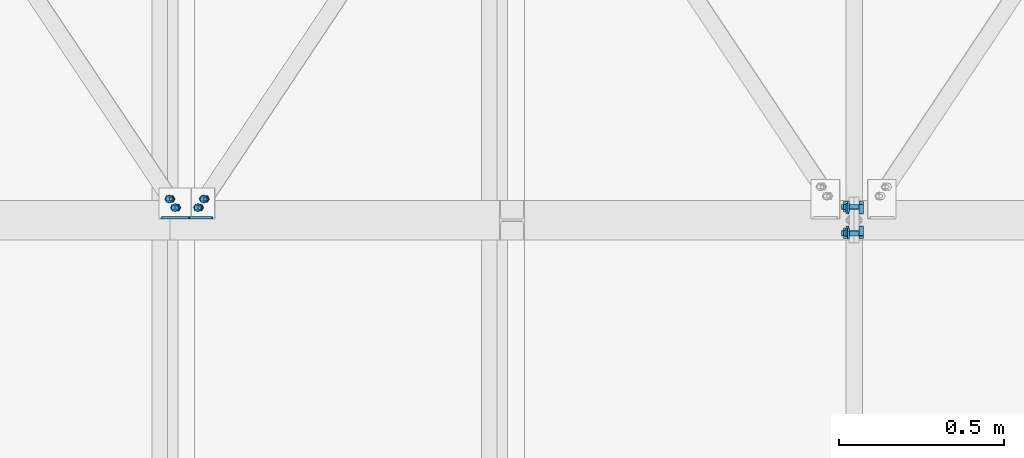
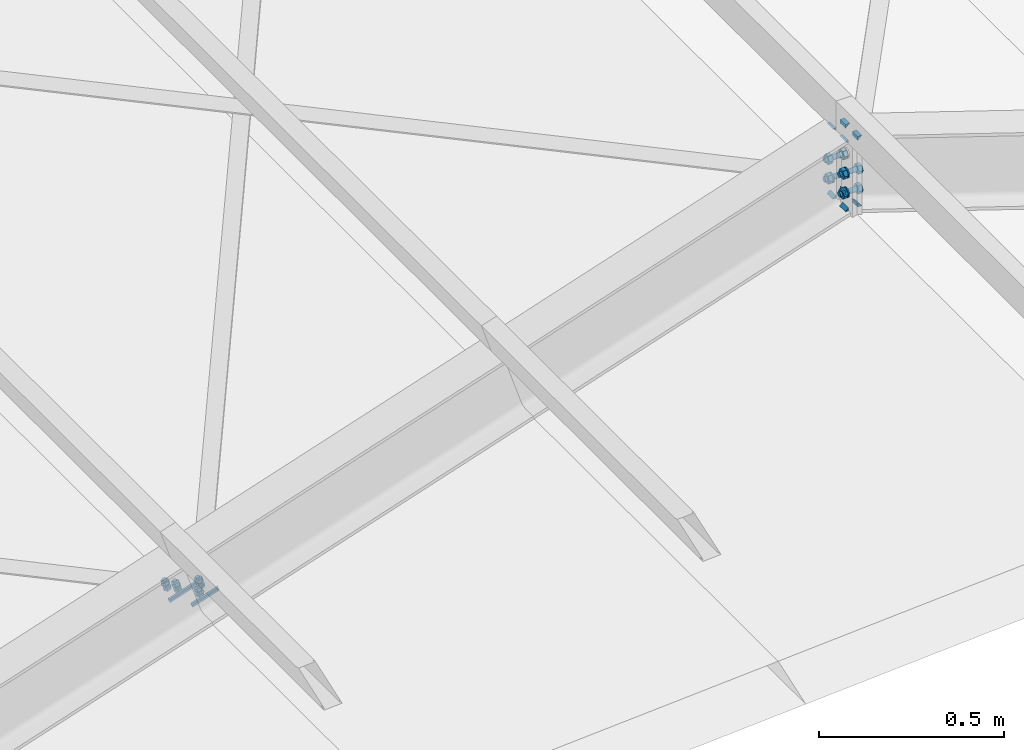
# One storey, part 40 of 53: 31 mechanical fasteners, 16 fasteners.
"""IFC4 building model written with IfcOpenShell, lengths in metres."""

import ifcopenshell
import ifcopenshell.guid

model = None  # the IFC model being written
_history = None  # IfcOwnerHistory: only IFC2X3 demands one
_inside = {}  # id of a spatial element -> (the spatial element, [elements in it])
_under = {}  # id of a project, library or spatial element -> (it, [spatial elements below it])
_declared = {}  # id of a project -> (the project, [libraries it declares])
_typed = {}  # id of a type object -> (the type object, [elements of that type])
_made_of = {}  # id of a material, layer set ... -> (it, [elements and type objects made of it])


def new_model(schema):
    """Start an empty IFC model of exactly this schema.

    Asked for "IFC4X3", IfcOpenShell would pick the latest addendum, in which some entities
    have other attributes; the version numbers below select the first issue.
    IFC2X3 requires an IfcOwnerHistory on every rooted entity: one is made here for all.
    """
    global model, _history
    if schema == "IFC4X3":
        model = ifcopenshell.file(schema_version=(4, 3, 0, 0))
    else:
        model = ifcopenshell.file(schema=schema)
    _inside.clear()
    _under.clear()
    _declared.clear()
    _typed.clear()
    _made_of.clear()
    _history = None
    if model.schema == "IFC2X3":
        org = make("IfcOrganization", Name="unknown")
        user = make(
            "IfcPersonAndOrganization",
            ThePerson=make("IfcPerson", FamilyName="unknown"),
            TheOrganization=org,
        )
        app = make(
            "IfcApplication",
            ApplicationDeveloper=org,
            Version="unknown",
            ApplicationFullName="unknown",
            ApplicationIdentifier="unknown",
        )
        _history = make(
            "IfcOwnerHistory",
            OwningUser=user,
            OwningApplication=app,
            ChangeAction="ADDED",
            CreationDate=0,
        )
    return model


def make(cls, **values):
    """One entity of the class cls with the attributes given. An attribute that is None is left unset."""
    return model.create_entity(
        cls, **{name: value for name, value in values.items() if value is not None}
    )


def rooted(cls, **values):
    """An entity with a GlobalId (a new one), such as an element, a storey or a relation."""
    return make(cls, GlobalId=ifcopenshell.guid.new(), OwnerHistory=_history, **values)


def si_unit(unit_type, name, prefix=None):
    """IfcSIUnit, for example si_unit("LENGTHUNIT", "METRE", prefix="MILLI")."""
    return make("IfcSIUnit", UnitType=unit_type, Prefix=prefix, Name=name)


def assignment(units):
    """IfcUnitAssignment: the units of a project."""
    return None if units is None else make("IfcUnitAssignment", Units=units)


def point(xyz):
    """IfcCartesianPoint."""
    return None if xyz is None else make("IfcCartesianPoint", Coordinates=xyz)


def direction(xyz):
    """IfcDirection."""
    return None if xyz is None else make("IfcDirection", DirectionRatios=xyz)


def frame(location, z_axis=None, x_axis=None):
    """IfcAxis2Placement3D, a coordinate frame: its origin and axes. An axis left out is left unset."""
    return make(
        "IfcAxis2Placement3D",
        Location=point(location),
        Axis=direction(z_axis),
        RefDirection=direction(x_axis),
    )


def origin_with_axes():
    """The frame at (0, 0, 0) with the z axis (0, 0, 1) and the x axis (1, 0, 0) written out."""
    return frame((0.0, 0.0, 0.0), z_axis=(0.0, 0.0, 1.0), x_axis=(1.0, 0.0, 0.0))


def place(relative_to, where):
    """IfcLocalPlacement: puts the frame where relative to a parent placement (None: the world)."""
    return make(
        "IfcLocalPlacement", PlacementRelTo=relative_to, RelativePlacement=where
    )


def context(
    kind, dimensions, precision=None, world=None, true_north=None, identifier=None
):
    """IfcGeometricRepresentationContext, for example the 3D "Model" context."""
    return make(
        "IfcGeometricRepresentationContext",
        ContextIdentifier=identifier,
        ContextType=kind,
        CoordinateSpaceDimension=dimensions,
        Precision=precision,
        WorldCoordinateSystem=world,
        TrueNorth=true_north,
    )


def project(units=None, contexts=None):
    """IfcProject with its units and contexts."""
    return rooted(
        "IfcProject",
        Name="project",
        RepresentationContexts=contexts,
        UnitsInContext=assignment(units),
    )


def spatial(cls, under=None, at=None, **own):
    """A site, building, storey or space (cls), placed at a placement, below another one or the project."""
    s = rooted(cls, ObjectPlacement=at, **own)
    if under is not None:
        _under.setdefault(under.id(), (under, []))[1].append(s)
    return s


def polyline(points):
    """IfcPolyline through the points."""
    return make("IfcPolyline", Points=[point(p) for p in points])


def outline(outer, holes=None, kind="AREA"):
    """IfcArbitraryClosedProfileDef: a profile drawn as a closed curve; with holes, ...WithVoids."""
    if holes is None:
        return make("IfcArbitraryClosedProfileDef", ProfileType=kind, OuterCurve=outer)
    return make(
        "IfcArbitraryProfileDefWithVoids",
        ProfileType=kind,
        OuterCurve=outer,
        InnerCurves=holes,
    )


def extrude(swept, where, along, depth):
    """IfcExtrudedAreaSolid: the profile swept, set in the frame where, extruded along a direction by depth."""
    return make(
        "IfcExtrudedAreaSolid",
        SweptArea=swept,
        Position=where,
        ExtrudedDirection=direction(along),
        Depth=depth,
    )


def shape(context_of_items, identifier, shape_type, items):
    """IfcShapeRepresentation: the items that make up one representation, for example the "Body"."""
    return make(
        "IfcShapeRepresentation",
        ContextOfItems=context_of_items,
        RepresentationIdentifier=identifier,
        RepresentationType=shape_type,
        Items=items,
    )


def made_of(thing, what):
    """Note that an element or type object is made of a material, layer set ...; save() writes the relation."""
    if what is not None:
        _made_of.setdefault(what.id(), (what, []))[1].append(thing)
    return thing


def type_object(cls, material=None, **own):
    """A type object (cls), such as IfcWallType, which elements share."""
    return made_of(rooted(cls, **own), material)


def element(
    cls,
    number,
    at=None,
    inside=None,
    cuts=None,
    type_object=None,
    material=None,
    context=None,
    identifier="Body",
    shape_type=None,
    held_by="IfcProductDefinitionShape",
    body=None,
    shapes=None,
    **own,
):
    """One element of the class cls, such as IfcWall. Its Tag is "e" and its number.

    at: its placement. inside: the storey or other place that contains it. cuts: it is an
    opening in that element (IfcRelVoidsElement). A single representation is given by context,
    identifier, shape_type and body (its items); several are given by shapes. held_by: the class
    of the entity that holds the representations. save() writes the other relations.
    """
    e = rooted(cls, Tag="e%d" % number, ObjectPlacement=at, **own)
    if body is not None:
        shapes = [shape(context, identifier, shape_type, body)]
    if shapes is not None:
        e.Representation = make(held_by, Representations=shapes)
    if inside is not None:
        _inside.setdefault(inside.id(), (inside, []))[1].append(e)
    if cuts is not None:
        rooted(
            "IfcRelVoidsElement", RelatingBuildingElement=cuts, RelatedOpeningElement=e
        )
    if type_object is not None:
        _typed.setdefault(type_object.id(), (type_object, []))[1].append(e)
    return made_of(e, material)


def aggregate(whole, parts):
    """IfcRelAggregates: a whole, such as a stair, and the parts it consists of."""
    return rooted("IfcRelAggregates", RelatingObject=whole, RelatedObjects=parts)


def save(model, path):
    """Write the relations noted so far, then the file.

    IfcRelAggregates (storeys below a building ...), IfcRelContainedInSpatialStructure (elements
    in a storey), IfcRelDefinesByType, IfcRelAssociatesMaterial and IfcRelDeclares: one each for
    every whole, place, type object, material and project.
    """
    for whole, parts in _under.values():
        aggregate(whole, parts)
    for where, things in _inside.values():
        rooted(
            "IfcRelContainedInSpatialStructure",
            RelatedElements=things,
            RelatingStructure=where,
        )
    for kind, things in _typed.values():
        rooted("IfcRelDefinesByType", RelatedObjects=things, RelatingType=kind)
    for what, things in _made_of.values():
        rooted("IfcRelAssociatesMaterial", RelatedObjects=things, RelatingMaterial=what)
    for by, libraries in _declared.values():
        rooted("IfcRelDeclares", RelatingContext=by, RelatedDefinitions=libraries)
    model.write(path)


model = new_model("IFC4")

# Units and contexts
model_context = context("Model", 3, precision=1e-05, world=origin_with_axes())
ifc_project = project(units=[si_unit("LENGTHUNIT", "METRE"), si_unit("AREAUNIT", "SQUARE_METRE"), si_unit("VOLUMEUNIT", "CUBIC_METRE"), si_unit("MASSUNIT", "GRAM", prefix="KILO"), si_unit("TIMEUNIT", "SECOND"), si_unit("PLANEANGLEUNIT", "RADIAN"), si_unit("SOLIDANGLEUNIT", "STERADIAN"), si_unit("THERMODYNAMICTEMPERATUREUNIT", "DEGREE_CELSIUS")], contexts=[model_context])

# Site, building, storey
placement_1 = place(None, origin_with_axes())
site = spatial("IfcSite", under=ifc_project, at=placement_1, Name="Italia", CompositionType="ELEMENT")
building = spatial("IfcBuilding", under=site, at=placement_1, Name="Capannone", CompositionType="ELEMENT")
storey_placement = place(None, frame((0.0, 0.0, 5.550000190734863), z_axis=(0.0, 0.0, 1.0), x_axis=(1.0, 0.0, 0.0)))
storey = spatial("IfcBuildingStorey", under=building, at=storey_placement, Name="Storey 1", CompositionType="ELEMENT", Elevation=5.550000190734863)

# Mechanical fasteners
mechanical_fastener_type_1 = type_object("IfcMechanicalFastenerType", Name="Collegamento -1119_-1089", PredefinedType="BOLT")
placement_2 = place(placement_1, origin_with_axes())
mechanical_fastener_1_placement = place(placement_2, origin_with_axes())
element("IfcMechanicalFastener", 1, at=mechanical_fastener_1_placement, inside=storey, type_object=mechanical_fastener_type_1, Name="Collegamento -1119_-1089", NominalDiameter=0.0119994, context=model_context, shape_type="SweptSolid", body=[
    extrude(outline(polyline([(0.0, 0.0), (-0.00982189, 0.00689363), (-0.0207033, 0.00183296), (-0.0217609, -0.0101199), (-0.0119381, -0.0170135), (-0.00105762, -0.0119529), (0.0, 0.0)])), frame((4.94909, 12.0488, 7.27876), z_axis=(0.312171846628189, 0.0, -0.950025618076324), x_axis=(0.0, 1.0, 0.0)), (0.0, 0.0, 1.0), 0.00960023),
])
mechanical_fastener_type_2 = type_object("IfcMechanicalFastenerType", Name="Collegamento -1119_-1089", PredefinedType="BOLT")
mechanical_fastener_2_placement = place(placement_2, origin_with_axes())
element("IfcMechanicalFastener", 2, at=mechanical_fastener_2_placement, inside=storey, type_object=mechanical_fastener_type_2, Name="Collegamento -1119_-1089", NominalDiameter=0.012, context=model_context, shape_type="SweptSolid", body=[
    extrude(outline(polyline([(0.0, 0.0), (-0.000204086, -0.00155354), (-0.000802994, -0.00300026), (-0.00175667, -0.0042429), (-0.00299931, -0.00519657), (-0.00444698, -0.00579548), (-0.00599957, -0.00600004), (-0.00755215, -0.00579548), (-0.00899982, -0.00519657), (-0.0102425, -0.0042429), (-0.0111961, -0.00300026), (-0.011795, -0.00155354), (-0.0119991, 0.0), (-0.011795, 0.00155258), (-0.0111961, 0.00299978), (-0.0102425, 0.00424242), (-0.00899982, 0.00519562), (-0.00755215, 0.00579548), (-0.00599957, 0.00599957), (-0.00444698, 0.00579548), (-0.00299931, 0.00519562), (-0.00175667, 0.00424242), (-0.000802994, 0.00299978), (-0.000204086, 0.00155258), (0.0, 0.0)])), frame((4.93554, 12.0439, 7.30378), z_axis=(0.312137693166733, 0.0, -0.950036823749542), x_axis=(0.0, 1.0, 0.0)), (0.0, 0.0, 1.0), 0.0280003),
])
mechanical_fastener_type_3 = type_object("IfcMechanicalFastenerType", Name="Collegamento -1119_-1089", PredefinedType="BOLT")
mechanical_fastener_3_placement = place(placement_2, origin_with_axes())
element("IfcMechanicalFastener", 3, at=mechanical_fastener_3_placement, inside=storey, type_object=mechanical_fastener_type_3, Name="Collegamento -1119_-1089", NominalDiameter=0.0119994, context=model_context, shape_type="SweptSolid", body=[
    extrude(outline(polyline([(0.0, 0.0), (-0.00982189, 0.00689316), (-0.0207033, 0.00183296), (-0.0217609, -0.0101204), (-0.0119381, -0.0170135), (-0.00105762, -0.0119529), (0.0, 0.0)])), frame((4.94235, 12.0488, 7.29928), z_axis=(0.312171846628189, 0.0, -0.950025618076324), x_axis=(0.0, 1.0, 0.0)), (0.0, 0.0, 1.0), 0.00960023),
])
mechanical_fastener_type_4 = type_object("IfcMechanicalFastenerType", Name="Collegamento -1119_-1089", PredefinedType="BOLT")
mechanical_fastener_4_placement = place(placement_2, origin_with_axes())
element("IfcMechanicalFastener", 4, at=mechanical_fastener_4_placement, inside=storey, type_object=mechanical_fastener_type_4, Name="Collegamento -1119_-1089", NominalDiameter=0.024, context=model_context, shape_type="SweptSolid", body=[
    extrude(outline(polyline([(0.0, 0.0), (-0.000409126, -0.00310612), (-0.00160789, -0.00600004), (-0.00351524, -0.00848532), (-0.00600052, -0.0103927), (-0.00889397, -0.0115914), (-0.0120001, -0.0120001), (-0.0151062, -0.0115914), (-0.0179996, -0.0103927), (-0.0204849, -0.00848532), (-0.0223923, -0.00600004), (-0.023591, -0.00310612), (-0.0240002, 0.0), (-0.023591, 0.00310612), (-0.0223923, 0.00600004), (-0.0204849, 0.00848532), (-0.0179996, 0.0103927), (-0.0151062, 0.0115914), (-0.0120001, 0.0120001), (-0.00889397, 0.0115914), (-0.00600052, 0.0103927), (-0.00351524, 0.00848532), (-0.00160789, 0.00600004), (-0.000409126, 0.00310612), (0.0, 0.0)])), frame((4.94054, 12.0499, 7.28858), z_axis=(0.312220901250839, 0.0, -0.950009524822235), x_axis=(0.0, 1.0, 0.0)), (0.0, 0.0, 1.0), 0.00200069),
])
mechanical_fastener_type_5 = type_object("IfcMechanicalFastenerType", Name="Collegamento -1119_-1089", PredefinedType="BOLT")
mechanical_fastener_5_placement = place(placement_2, origin_with_axes())
element("IfcMechanicalFastener", 5, at=mechanical_fastener_5_placement, inside=storey, type_object=mechanical_fastener_type_5, Name="Collegamento -1119_-1089", NominalDiameter=0.0119996, context=model_context, shape_type="SweptSolid", body=[
    extrude(outline(polyline([(0.0, 0.0), (-0.00982285, 0.00689363), (-0.0207033, 0.00183344), (-0.0217619, -0.0101199), (-0.011939, -0.0170135), (-0.00105858, -0.0119534), (0.0, 0.0)])), frame((4.93163, 12.075, 7.27302), z_axis=(0.312171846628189, 0.0, -0.950025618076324), x_axis=(0.0, 1.0, 0.0)), (0.0, 0.0, 1.0), 0.00960023),
])
mechanical_fastener_type_6 = type_object("IfcMechanicalFastenerType", Name="Collegamento -1119_-1089", PredefinedType="BOLT")
mechanical_fastener_6_placement = place(placement_2, origin_with_axes())
element("IfcMechanicalFastener", 6, at=mechanical_fastener_6_placement, inside=storey, type_object=mechanical_fastener_type_6, Name="Collegamento -1119_-1089", NominalDiameter=0.012, context=model_context, shape_type="SweptSolid", body=[
    extrude(outline(polyline([(0.0, 0.0), (-0.000204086, -0.00155258), (-0.000802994, -0.00299931), (-0.00175667, -0.00424194), (-0.00299931, -0.00519562), (-0.00444698, -0.00579548), (-0.00599957, -0.00599957), (-0.00755215, -0.00579548), (-0.00899982, -0.00519562), (-0.0102425, -0.00424194), (-0.0111961, -0.00299931), (-0.011795, -0.00155258), (-0.0119991, 0.0), (-0.011795, 0.00155354), (-0.0111961, 0.00300026), (-0.0102425, 0.0042429), (-0.00899982, 0.00519657), (-0.00755215, 0.00579548), (-0.00599957, 0.00600052), (-0.00444698, 0.00579548), (-0.00299931, 0.00519657), (-0.00175667, 0.0042429), (-0.000802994, 0.00300026), (-0.000204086, 0.00155354), (0.0, 0.0)])), frame((4.91808, 12.0701, 7.29804), z_axis=(0.312142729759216, 0.0, -0.950035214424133), x_axis=(0.0, 1.0, 0.0)), (0.0, 0.0, 1.0), 0.0279998),
])
mechanical_fastener_type_7 = type_object("IfcMechanicalFastenerType", Name="Collegamento -1119_-1089", PredefinedType="BOLT")
mechanical_fastener_7_placement = place(placement_2, origin_with_axes())
element("IfcMechanicalFastener", 7, at=mechanical_fastener_7_placement, inside=storey, type_object=mechanical_fastener_type_7, Name="Collegamento -1119_-1089", NominalDiameter=0.0119996, context=model_context, shape_type="SweptSolid", body=[
    extrude(outline(polyline([(0.0, 0.0), (-0.00982285, 0.00689316), (-0.0207033, 0.00183296), (-0.0217619, -0.0101209), (-0.011939, -0.0170135), (-0.00105858, -0.0119534), (0.0, 0.0)])), frame((4.92488, 12.075, 7.29354), z_axis=(0.312171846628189, 0.0, -0.950025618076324), x_axis=(0.0, 1.0, 0.0)), (0.0, 0.0, 1.0), 0.00960023),
])
mechanical_fastener_type_8 = type_object("IfcMechanicalFastenerType", Name="Collegamento -1119_-1089", PredefinedType="BOLT")
mechanical_fastener_8_placement = place(placement_2, origin_with_axes())
element("IfcMechanicalFastener", 8, at=mechanical_fastener_8_placement, inside=storey, type_object=mechanical_fastener_type_8, Name="Collegamento -1119_-1089", NominalDiameter=0.024, context=model_context, shape_type="SweptSolid", body=[
    extrude(outline(polyline([(0.0, 0.0), (-0.000409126, -0.00310564), (-0.00160789, -0.00600004), (-0.00351524, -0.00848532), (-0.00600052, -0.0103927), (-0.00889397, -0.0115914), (-0.0120001, -0.0120006), (-0.0151062, -0.0115914), (-0.0179996, -0.0103927), (-0.0204849, -0.00848532), (-0.0223923, -0.00600004), (-0.023591, -0.00310564), (-0.0240002, 0.0), (-0.023591, 0.00310564), (-0.0223923, 0.00600004), (-0.0204849, 0.00848532), (-0.0179996, 0.0103927), (-0.0151062, 0.011591), (-0.0120001, 0.0120006), (-0.00889397, 0.011591), (-0.00600052, 0.0103927), (-0.00351524, 0.00848532), (-0.00160789, 0.00600004), (-0.000409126, 0.00310564), (0.0, 0.0)])), frame((4.92307, 12.0761, 7.28284), z_axis=(0.312362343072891, 0.0, -0.94996303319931), x_axis=(0.0, 1.0, 0.0)), (0.0, 0.0, 1.0), 0.00199978),
])

# Fasteners
fastener_type_1 = type_object("IfcFastenerType", Name="Collegamento -1119_-1089", PredefinedType="WELD")
fastener_1_placement = place(placement_2, origin_with_axes())
element("IfcFastener", 9, at=fastener_1_placement, inside=storey, type_object=fastener_type_1, Name="Collegamento -1119_-1089", context=model_context, shape_type="SweptSolid", body=[
    extrude(outline(polyline([(0.0, 0.0), (0.00717258, -0.00695801), (0.0, -0.00695801), (0.0, 0.0)])), frame((4.89662, 12.0031, 7.27931), z_axis=(0.950028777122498, 0.0, 0.312162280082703), x_axis=(0.0, 1.0, 0.0)), (0.0, 0.0, 1.0), 0.0881003),
])
fastener_type_2 = type_object("IfcFastenerType", Name="Collegamento -1119_-1089", PredefinedType="WELD")
fastener_2_placement = place(placement_2, origin_with_axes())
element("IfcFastener", 10, at=fastener_2_placement, inside=storey, type_object=fastener_type_2, Name="Collegamento -1119_-1089", context=model_context, shape_type="SweptSolid", body=[
    extrude(outline(polyline([(0.0, 0.0), (-0.00717258, 0.00695801), (0.0, 0.00695801), (0.0, 0.0)])), frame((4.98619, 12.0031, 7.28894), z_axis=(-0.950030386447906, 0.0, -0.312157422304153), x_axis=(0.0, -1.0, 0.0)), (0.0, 0.0, 1.0), 0.0881001),
])

# Mechanical fasteners
mechanical_fastener_type_9 = type_object("IfcMechanicalFastenerType", Name="Collegamento -1119_-1147", PredefinedType="BOLT")
mechanical_fastener_9_placement = place(placement_2, origin_with_axes())
element("IfcMechanicalFastener", 11, at=mechanical_fastener_9_placement, inside=storey, type_object=mechanical_fastener_type_9, Name="Collegamento -1119_-1147", NominalDiameter=0.0119997, context=model_context, shape_type="SweptSolid", body=[
    extrude(outline(polyline([(0.0, 0.0), (-0.00982285, -0.00689316), (-0.00876522, -0.0188465), (0.0021162, -0.0239067), (0.011939, -0.017014), (0.0108805, -0.0050602), (0.0, 0.0)])), frame((5.02493, 12.0369, 7.24052), z_axis=(0.312127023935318, 0.0, -0.950040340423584), x_axis=(0.0, 1.0, 0.0)), (0.0, 0.0, 1.0), 0.00960008),
])
mechanical_fastener_type_10 = type_object("IfcMechanicalFastenerType", Name="Collegamento -1119_-1147", PredefinedType="BOLT")
mechanical_fastener_10_placement = place(placement_2, origin_with_axes())
element("IfcMechanicalFastener", 12, at=mechanical_fastener_10_placement, inside=storey, type_object=mechanical_fastener_type_10, Name="Collegamento -1119_-1147", NominalDiameter=0.012, context=model_context, shape_type="SweptSolid", body=[
    extrude(outline(polyline([(0.0, 0.0), (-0.000204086, -0.00155306), (-0.000802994, -0.00300026), (-0.00175667, -0.00424242), (-0.00299931, -0.00519657), (-0.00444698, -0.00579548), (-0.00599957, -0.00599957), (-0.00755215, -0.00579548), (-0.00899982, -0.00519657), (-0.0102425, -0.00424242), (-0.0111961, -0.00300026), (-0.011795, -0.00155306), (-0.0119991, 0.0), (-0.011795, 0.00155306), (-0.0111961, 0.00300026), (-0.0102425, 0.0042429), (-0.00899982, 0.00519657), (-0.00755215, 0.00579596), (-0.00599957, 0.00600004), (-0.00444698, 0.00579596), (-0.00299931, 0.00519657), (-0.00175667, 0.0042429), (-0.000802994, 0.00300026), (-0.000204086, 0.00155306), (0.0, 0.0)])), frame((5.00484, 12.0439, 7.26339), z_axis=(0.312153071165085, 0.0, -0.950031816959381), x_axis=(0.0, 1.0, 0.0)), (0.0, 0.0, 1.0), 0.0280004),
])
mechanical_fastener_type_11 = type_object("IfcMechanicalFastenerType", Name="Collegamento -1119_-1147", PredefinedType="BOLT")
mechanical_fastener_11_placement = place(placement_2, origin_with_axes())
element("IfcMechanicalFastener", 13, at=mechanical_fastener_11_placement, inside=storey, type_object=mechanical_fastener_type_11, Name="Collegamento -1119_-1147", NominalDiameter=0.0119997, context=model_context, shape_type="SweptSolid", body=[
    extrude(outline(polyline([(0.0, 0.0), (-0.00982285, -0.00689363), (-0.00876522, -0.018846), (0.0021162, -0.0239062), (0.011939, -0.017014), (0.0108805, -0.0050602), (0.0, 0.0)])), frame((5.01819, 12.0369, 7.26104), z_axis=(0.312127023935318, 0.0, -0.950040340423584), x_axis=(0.0, 1.0, 0.0)), (0.0, 0.0, 1.0), 0.00960008),
])
mechanical_fastener_type_12 = type_object("IfcMechanicalFastenerType", Name="Collegamento -1119_-1147", PredefinedType="BOLT")
mechanical_fastener_12_placement = place(placement_2, origin_with_axes())
element("IfcMechanicalFastener", 14, at=mechanical_fastener_12_placement, inside=storey, type_object=mechanical_fastener_type_12, Name="Collegamento -1119_-1147", NominalDiameter=0.024, context=model_context, shape_type="SweptSolid", body=[
    extrude(outline(polyline([(0.0, 0.0), (-0.000409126, -0.00310564), (-0.00160789, -0.00600004), (-0.00351524, -0.00848532), (-0.00600052, -0.0103922), (-0.00889397, -0.011591), (-0.0120001, -0.0120006), (-0.0151062, -0.011591), (-0.0179996, -0.0103922), (-0.0204849, -0.00848532), (-0.0223923, -0.00600004), (-0.023591, -0.00310564), (-0.0240002, 0.0), (-0.023591, 0.00310564), (-0.0223923, 0.00600004), (-0.0204849, 0.00848579), (-0.0179996, 0.0103922), (-0.0151062, 0.011591), (-0.0120001, 0.0120001), (-0.00889397, 0.011591), (-0.00600052, 0.0103922), (-0.00351524, 0.00848579), (-0.00160789, 0.00600004), (-0.000409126, 0.00310564), (0.0, 0.0)])), frame((5.00983, 12.0499, 7.24819), z_axis=(0.312005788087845, 0.0, -0.950080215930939), x_axis=(0.0, 1.0, 0.0)), (0.0, 0.0, 1.0), 0.00200054),
])
mechanical_fastener_type_13 = type_object("IfcMechanicalFastenerType", Name="Collegamento -1119_-1147", PredefinedType="BOLT")
mechanical_fastener_13_placement = place(placement_2, origin_with_axes())
element("IfcMechanicalFastener", 15, at=mechanical_fastener_13_placement, inside=storey, type_object=mechanical_fastener_type_13, Name="Collegamento -1119_-1147", NominalDiameter=0.0119997, context=model_context, shape_type="SweptSolid", body=[
    extrude(outline(polyline([(0.0, 0.0), (-0.00982285, -0.00689316), (-0.00876427, -0.018846), (0.0021162, -0.0239067), (0.011939, -0.017014), (0.0108814, -0.0050602), (0.0, 0.0)])), frame((5.0424, 12.0631, 7.24626), z_axis=(0.312127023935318, 0.0, -0.950040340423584), x_axis=(0.0, 1.0, 0.0)), (0.0, 0.0, 1.0), 0.00960008),
])
mechanical_fastener_type_14 = type_object("IfcMechanicalFastenerType", Name="Collegamento -1119_-1147", PredefinedType="BOLT")
mechanical_fastener_14_placement = place(placement_2, origin_with_axes())
element("IfcMechanicalFastener", 16, at=mechanical_fastener_14_placement, inside=storey, type_object=mechanical_fastener_type_14, Name="Collegamento -1119_-1147", NominalDiameter=0.012, context=model_context, shape_type="SweptSolid", body=[
    extrude(outline(polyline([(0.0, 0.0), (-0.000204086, -0.00155258), (-0.000802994, -0.00300026), (-0.00175667, -0.00424242), (-0.00299931, -0.00519609), (-0.00444698, -0.00579548), (-0.00599957, -0.00599957), (-0.00755215, -0.00579548), (-0.00899982, -0.00519609), (-0.0102425, -0.00424242), (-0.0111961, -0.00300026), (-0.011795, -0.00155258), (-0.0119991, 0.0), (-0.011795, 0.00155306), (-0.0111961, 0.00300026), (-0.0102425, 0.0042429), (-0.00899982, 0.00519657), (-0.00755215, 0.00579596), (-0.00599957, 0.00600004), (-0.00444698, 0.00579596), (-0.00299931, 0.00519657), (-0.00175667, 0.0042429), (-0.000802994, 0.00300026), (-0.000204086, 0.00155306), (0.0, 0.0)])), frame((5.0223, 12.0701, 7.26913), z_axis=(0.312158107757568, 0.0, -0.950030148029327), x_axis=(0.0, 1.0, 0.0)), (0.0, 0.0, 1.0), 0.028),
])
mechanical_fastener_type_15 = type_object("IfcMechanicalFastenerType", Name="Collegamento -1119_-1147", PredefinedType="BOLT")
mechanical_fastener_15_placement = place(placement_2, origin_with_axes())
element("IfcMechanicalFastener", 17, at=mechanical_fastener_15_placement, inside=storey, type_object=mechanical_fastener_type_15, Name="Collegamento -1119_-1147", NominalDiameter=0.0119997, context=model_context, shape_type="SweptSolid", body=[
    extrude(outline(polyline([(0.0, 0.0), (-0.00982285, -0.00689268), (-0.00876427, -0.0188465), (0.0021162, -0.0239067), (0.011939, -0.017014), (0.0108814, -0.0050602), (0.0, 0.0)])), frame((5.03565, 12.0631, 7.26678), z_axis=(0.312127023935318, 0.0, -0.950040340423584), x_axis=(0.0, 1.0, 0.0)), (0.0, 0.0, 1.0), 0.00960008),
])
mechanical_fastener_type_16 = type_object("IfcMechanicalFastenerType", Name="Collegamento -1119_-1147", PredefinedType="BOLT")
mechanical_fastener_16_placement = place(placement_2, origin_with_axes())
element("IfcMechanicalFastener", 18, at=mechanical_fastener_16_placement, inside=storey, type_object=mechanical_fastener_type_16, Name="Collegamento -1119_-1147", NominalDiameter=0.024, context=model_context, shape_type="SweptSolid", body=[
    extrude(outline(polyline([(0.0, 0.0), (-0.000409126, -0.00310564), (-0.00160789, -0.00599957), (-0.00351524, -0.00848484), (-0.00600052, -0.0103917), (-0.00889397, -0.011591), (-0.0120001, -0.0119991), (-0.0151062, -0.011591), (-0.0179996, -0.0103917), (-0.0204849, -0.00848484), (-0.0223923, -0.00599957), (-0.023591, -0.00310564), (-0.0240002, 0.0), (-0.023591, 0.00310612), (-0.0223923, 0.00600052), (-0.0204849, 0.00848579), (-0.0179996, 0.0103927), (-0.0151062, 0.0115914), (-0.0120001, 0.0120001), (-0.00889397, 0.0115914), (-0.00600052, 0.0103927), (-0.00351524, 0.00848579), (-0.00160789, 0.00600052), (-0.000409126, 0.00310612), (0.0, 0.0)])), frame((5.0273, 12.0761, 7.25393), z_axis=(0.31214714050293, 0.0, -0.950033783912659), x_axis=(0.0, 1.0, 0.0)), (0.0, 0.0, 1.0), 0.00199963),
])

# Fasteners
fastener_type_3 = type_object("IfcFastenerType", Name="Collegamento -1119_-1147", PredefinedType="WELD")
fastener_3_placement = place(placement_2, origin_with_axes())
element("IfcFastener", 19, at=fastener_3_placement, inside=storey, type_object=fastener_type_3, Name="Collegamento -1119_-1147", context=model_context, shape_type="SweptSolid", body=[
    extrude(outline(polyline([(0.0, 0.0), (0.00717258, -0.00695801), (0.0, -0.00695801), (0.0, 0.0)])), frame((4.96699, 12.0031, 7.23928), z_axis=(0.950032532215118, 0.0, 0.312150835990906), x_axis=(0.0, 1.0, 0.0)), (0.0, 0.0, 1.0), 0.0880989),
])
fastener_type_4 = type_object("IfcFastenerType", Name="Collegamento -1119_-1147", PredefinedType="WELD")
fastener_4_placement = place(placement_2, origin_with_axes())
element("IfcFastener", 20, at=fastener_4_placement, inside=storey, type_object=fastener_type_4, Name="Collegamento -1119_-1147", context=model_context, shape_type="SweptSolid", body=[
    extrude(outline(polyline([(0.0, 0.0), (-0.00717258, 0.00695801), (0.0, 0.00695801), (0.0, 0.0)])), frame((5.05656, 12.0031, 7.2489), z_axis=(-0.950030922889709, 0.0, -0.312155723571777), x_axis=(0.0, -1.0, 0.0)), (0.0, 0.0, 1.0), 0.0880991),
])
fastener_type_5 = type_object("IfcFastenerType", Name="Collegamenti -1142_-1128 -1143_-1130 -1144_-1132 -1145_-1134 -1146_-1136 -1147_-1138", PredefinedType="WELD")
fastener_5_placement = place(placement_2, origin_with_axes())
element("IfcFastener", 21, at=fastener_5_placement, inside=storey, type_object=fastener_type_5, Name="Collegamenti -1142_-1128 -1143_-1130 -1144_-1132 -1145_-1134 -1146_-1136 -1147_-1138", context=model_context, shape_type="SweptSolid", body=[
    extrude(outline(polyline([(0.0, 0.0), (-0.0131736, 0.0127764), (4.76837e-07, 0.0127764), (0.0, 0.0)])), frame((7.01495, 11.9529, 8.07465), z_axis=(0.0, 1.0, 0.0), x_axis=(-1.0, 0.0, 0.0)), (0.0, 0.0, 1.0), 0.0290003),
])
fastener_type_6 = type_object("IfcFastenerType", Name="Collegamenti -1142_-1128 -1143_-1130 -1144_-1132 -1145_-1134 -1146_-1136 -1147_-1138", PredefinedType="WELD")
fastener_6_placement = place(placement_2, origin_with_axes())
element("IfcFastener", 22, at=fastener_6_placement, inside=storey, type_object=fastener_type_6, Name="Collegamenti -1142_-1128 -1143_-1130 -1144_-1132 -1145_-1134 -1146_-1136 -1147_-1138", context=model_context, shape_type="SweptSolid", body=[
    extrude(outline(polyline([(0.0, 0.0), (0.0131736, -0.0127788), (0.0, -0.0127788), (0.0, 0.0)])), frame((7.01495, 11.9819, 7.86811), z_axis=(0.0, -1.0, 0.0), x_axis=(1.0, 0.0, 0.0)), (0.0, 0.0, 1.0), 0.0290003),
])
fastener_type_7 = type_object("IfcFastenerType", Name="Collegamenti -1142_-1128 -1143_-1130 -1144_-1132 -1145_-1134 -1146_-1136 -1147_-1138", PredefinedType="WELD")
fastener_7_placement = place(placement_2, origin_with_axes())
element("IfcFastener", 23, at=fastener_7_placement, inside=storey, type_object=fastener_type_7, Name="Collegamenti -1142_-1128 -1143_-1130 -1144_-1132 -1145_-1134 -1146_-1136 -1147_-1138", context=model_context, shape_type="SweptSolid", body=[
    extrude(outline(polyline([(0.0, 0.0), (0.0131736, -0.0127788), (0.0, -0.0127788), (0.0, 0.0)])), frame((7.01495, 12.0471, 7.86811), z_axis=(0.0, -1.0, 0.0), x_axis=(1.0, 0.0, 0.0)), (0.0, 0.0, 1.0), 0.0290003),
])
fastener_type_8 = type_object("IfcFastenerType", Name="Collegamenti -1142_-1128 -1143_-1130 -1144_-1132 -1145_-1134 -1146_-1136 -1147_-1138", PredefinedType="WELD")
fastener_8_placement = place(placement_2, origin_with_axes())
element("IfcFastener", 24, at=fastener_8_placement, inside=storey, type_object=fastener_type_8, Name="Collegamenti -1142_-1128 -1143_-1130 -1144_-1132 -1145_-1134 -1146_-1136 -1147_-1138", context=model_context, shape_type="SweptSolid", body=[
    extrude(outline(polyline([(0.0, 0.0), (-0.0131736, 0.0127764), (4.76837e-07, 0.0127764), (0.0, 0.0)])), frame((7.01495, 12.0181, 8.07465), z_axis=(0.0, 1.0, 0.0), x_axis=(-1.0, 0.0, 0.0)), (0.0, 0.0, 1.0), 0.0290003),
])
fastener_type_9 = type_object("IfcFastenerType", Name="Collegamenti -1142_-1128 -1143_-1130 -1144_-1132 -1145_-1134 -1146_-1136 -1147_-1138", PredefinedType="WELD")
fastener_9_placement = place(placement_2, origin_with_axes())
element("IfcFastener", 25, at=fastener_9_placement, inside=storey, type_object=fastener_type_9, Name="Collegamenti -1142_-1128 -1143_-1130 -1144_-1132 -1145_-1134 -1146_-1136 -1147_-1138", context=model_context, shape_type="SweptSolid", body=[
    extrude(outline(polyline([(0.0, 0.0), (-0.0131736, 0.0127764), (4.76837e-07, 0.0127764), (0.0, 0.0)])), frame((7.01495, 11.9529, 8.07465), z_axis=(0.0, 1.0, 0.0), x_axis=(-1.0, 0.0, 0.0)), (0.0, 0.0, 1.0), 0.0290003),
])
fastener_type_10 = type_object("IfcFastenerType", Name="Collegamenti -1142_-1128 -1143_-1130 -1144_-1132 -1145_-1134 -1146_-1136 -1147_-1138", PredefinedType="WELD")
fastener_10_placement = place(placement_2, origin_with_axes())
element("IfcFastener", 26, at=fastener_10_placement, inside=storey, type_object=fastener_type_10, Name="Collegamenti -1142_-1128 -1143_-1130 -1144_-1132 -1145_-1134 -1146_-1136 -1147_-1138", context=model_context, shape_type="SweptSolid", body=[
    extrude(outline(polyline([(0.0, 0.0), (0.0131736, -0.0127788), (0.0, -0.0127788), (0.0, 0.0)])), frame((7.01495, 11.9819, 7.86811), z_axis=(0.0, -1.0, 0.0), x_axis=(1.0, 0.0, 0.0)), (0.0, 0.0, 1.0), 0.0290003),
])
fastener_type_11 = type_object("IfcFastenerType", Name="Collegamenti -1142_-1128 -1143_-1130 -1144_-1132 -1145_-1134 -1146_-1136 -1147_-1138", PredefinedType="WELD")
fastener_11_placement = place(placement_2, origin_with_axes())
element("IfcFastener", 27, at=fastener_11_placement, inside=storey, type_object=fastener_type_11, Name="Collegamenti -1142_-1128 -1143_-1130 -1144_-1132 -1145_-1134 -1146_-1136 -1147_-1138", context=model_context, shape_type="SweptSolid", body=[
    extrude(outline(polyline([(0.0, 0.0), (0.0131736, -0.0127788), (0.0, -0.0127788), (0.0, 0.0)])), frame((7.01495, 12.0471, 7.86811), z_axis=(0.0, -1.0, 0.0), x_axis=(1.0, 0.0, 0.0)), (0.0, 0.0, 1.0), 0.0290003),
])
fastener_type_12 = type_object("IfcFastenerType", Name="Collegamenti -1142_-1128 -1143_-1130 -1144_-1132 -1145_-1134 -1146_-1136 -1147_-1138", PredefinedType="WELD")
fastener_12_placement = place(placement_2, origin_with_axes())
element("IfcFastener", 28, at=fastener_12_placement, inside=storey, type_object=fastener_type_12, Name="Collegamenti -1142_-1128 -1143_-1130 -1144_-1132 -1145_-1134 -1146_-1136 -1147_-1138", context=model_context, shape_type="SweptSolid", body=[
    extrude(outline(polyline([(0.0, 0.0), (-0.0131736, 0.0127764), (4.76837e-07, 0.0127764), (0.0, 0.0)])), frame((7.01495, 12.0181, 8.07465), z_axis=(0.0, 1.0, 0.0), x_axis=(-1.0, 0.0, 0.0)), (0.0, 0.0, 1.0), 0.0290003),
])
fastener_type_13 = type_object("IfcFastenerType", Name="Collegamenti -1142_-1128 -1143_-1130 -1144_-1132 -1145_-1134 -1146_-1136 -1147_-1138", PredefinedType="WELD")
fastener_13_placement = place(placement_2, origin_with_axes())
element("IfcFastener", 29, at=fastener_13_placement, inside=storey, type_object=fastener_type_13, Name="Collegamenti -1142_-1128 -1143_-1130 -1144_-1132 -1145_-1134 -1146_-1136 -1147_-1138", context=model_context, shape_type="SweptSolid", body=[
    extrude(outline(polyline([(0.0, 0.0), (-0.00982714, -0.0095315), (0.0, -0.0095315), (0.0, 0.0)])), frame((6.98495, 12.05, 7.86497), z_axis=(0.0, -1.0, 0.0), x_axis=(1.0, 0.0, 0.0)), (0.0, 0.0, 1.0), 0.0319996),
])
fastener_type_14 = type_object("IfcFastenerType", Name="Collegamenti -1142_-1128 -1143_-1130 -1144_-1132 -1145_-1134 -1146_-1136 -1147_-1138", PredefinedType="WELD")
fastener_14_placement = place(placement_2, origin_with_axes())
element("IfcFastener", 30, at=fastener_14_placement, inside=storey, type_object=fastener_type_14, Name="Collegamenti -1142_-1128 -1143_-1130 -1144_-1132 -1145_-1134 -1146_-1136 -1147_-1138", context=model_context, shape_type="SweptSolid", body=[
    extrude(outline(polyline([(0.0, 0.0), (0.00982714, 0.00953293), (0.0, 0.00953197), (0.0, 0.0)])), frame((6.98495, 12.0181, 8.0778), z_axis=(0.0, 1.0, 0.0), x_axis=(-1.0, 0.0, 0.0)), (0.0, 0.0, 1.0), 0.0319996),
])
fastener_type_15 = type_object("IfcFastenerType", Name="Collegamenti -1142_-1128 -1143_-1130 -1144_-1132 -1145_-1134 -1146_-1136 -1147_-1138", PredefinedType="WELD")
fastener_15_placement = place(placement_2, origin_with_axes())
element("IfcFastener", 31, at=fastener_15_placement, inside=storey, type_object=fastener_type_15, Name="Collegamenti -1142_-1128 -1143_-1130 -1144_-1132 -1145_-1134 -1146_-1136 -1147_-1138", context=model_context, shape_type="SweptSolid", body=[
    extrude(outline(polyline([(0.0, 0.0), (0.00982714, 0.00953293), (0.0, 0.00953197), (0.0, 0.0)])), frame((6.98495, 11.95, 8.0778), z_axis=(0.0, 1.0, 0.0), x_axis=(-1.0, 0.0, 0.0)), (0.0, 0.0, 1.0), 0.0319996),
])
fastener_type_16 = type_object("IfcFastenerType", Name="Collegamenti -1142_-1128 -1143_-1130 -1144_-1132 -1145_-1134 -1146_-1136 -1147_-1138", PredefinedType="WELD")
fastener_16_placement = place(placement_2, origin_with_axes())
element("IfcFastener", 32, at=fastener_16_placement, inside=storey, type_object=fastener_type_16, Name="Collegamenti -1142_-1128 -1143_-1130 -1144_-1132 -1145_-1134 -1146_-1136 -1147_-1138", context=model_context, shape_type="SweptSolid", body=[
    extrude(outline(polyline([(0.0, 0.0), (-0.00982714, -0.0095315), (0.0, -0.0095315), (0.0, 0.0)])), frame((6.98495, 11.9819, 7.86497), z_axis=(0.0, -1.0, 0.0), x_axis=(1.0, 0.0, 0.0)), (0.0, 0.0, 1.0), 0.0319996),
])

# Mechanical fasteners
mechanical_fastener_type_17 = type_object("IfcMechanicalFastenerType", Name="Collegamenti -1142_-1128 -1143_-1130 -1144_-1132 -1145_-1134 -1146_-1136 -1147_-1138", PredefinedType="BOLT")
mechanical_fastener_17_placement = place(placement_2, origin_with_axes())
element("IfcMechanicalFastener", 33, at=mechanical_fastener_17_placement, inside=storey, type_object=mechanical_fastener_type_17, Name="Collegamenti -1142_-1128 -1143_-1130 -1144_-1132 -1145_-1134 -1146_-1136 -1147_-1138", NominalDiameter=0.0159993, context=model_context, shape_type="SweptSolid", body=[
    extrude(outline(polyline([(0.0, 0.0), (-0.0160007, 0.0), (-0.0240002, 0.0138559), (-0.0160007, 0.0277119), (0.0, 0.0277119), (0.00799942, 0.0138559), (0.0, 0.0)])), frame((7.015, 11.968, 7.89746), z_axis=(1.0, 0.0, -3.7253659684e-05), x_axis=(0.0, 1.0, 0.0)), (0.0, 0.0, 1.0), 0.0127997),
])
mechanical_fastener_type_18 = type_object("IfcMechanicalFastenerType", Name="Collegamenti -1142_-1128 -1143_-1130 -1144_-1132 -1145_-1134 -1146_-1136 -1147_-1138", PredefinedType="BOLT")
mechanical_fastener_18_placement = place(placement_2, origin_with_axes())
element("IfcMechanicalFastener", 34, at=mechanical_fastener_18_placement, inside=storey, type_object=mechanical_fastener_type_18, Name="Collegamenti -1142_-1128 -1143_-1130 -1144_-1132 -1145_-1134 -1146_-1136 -1147_-1138", NominalDiameter=0.016, context=model_context, shape_type="SweptSolid", body=[
    extrude(outline(polyline([(0.0, 0.0), (-0.000272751, -0.00207043), (-0.00107193, -0.00400019), (-0.00234318, -0.00565672), (-0.00400066, -0.00692797), (-0.00592995, -0.00772762), (-0.00800037, -0.0079999), (-0.0100708, -0.00772762), (-0.0120001, -0.00692797), (-0.0136576, -0.00565672), (-0.0149288, -0.00400019), (-0.015728, -0.00207043), (-0.0160007, 0.0), (-0.015728, 0.00207043), (-0.0149288, 0.00400019), (-0.0136576, 0.00565672), (-0.0120001, 0.00692797), (-0.0100708, 0.00772762), (-0.00800037, 0.0079999), (-0.00592995, 0.00772762), (-0.00400066, 0.00692797), (-0.00234318, 0.00565672), (-0.00107193, 0.00400019), (-0.000272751, 0.00207043), (0.0, 0.0)])), frame((6.961, 11.968, 7.91131), z_axis=(1.0, 0.0, -1.7660668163e-05), x_axis=(0.0, 1.0, 0.0)), (0.0, 0.0, 1.0), 0.0539999),
])
mechanical_fastener_type_19 = type_object("IfcMechanicalFastenerType", Name="Collegamenti -1142_-1128 -1143_-1130 -1144_-1132 -1145_-1134 -1146_-1136 -1147_-1138", PredefinedType="BOLT")
mechanical_fastener_19_placement = place(placement_2, origin_with_axes())
element("IfcMechanicalFastener", 35, at=mechanical_fastener_19_placement, inside=storey, type_object=mechanical_fastener_type_19, Name="Collegamenti -1142_-1128 -1143_-1130 -1144_-1132 -1145_-1134 -1146_-1136 -1147_-1138", NominalDiameter=0.0159993, context=model_context, shape_type="SweptSolid", body=[
    extrude(outline(polyline([(0.0, 0.0), (-0.0160007, 0.0), (-0.0240002, 0.0138569), (-0.0160007, 0.0277128), (0.0, 0.0277128), (0.00799942, 0.0138569), (0.0, 0.0)])), frame((6.9682, 11.968, 7.89746), z_axis=(1.0, 0.0, 0.0), x_axis=(0.0, 1.0, 0.0)), (0.0, 0.0, 1.0), 0.0128002),
])
mechanical_fastener_type_20 = type_object("IfcMechanicalFastenerType", Name="Collegamenti -1142_-1128 -1143_-1130 -1144_-1132 -1145_-1134 -1146_-1136 -1147_-1138", PredefinedType="BOLT")
mechanical_fastener_20_placement = place(placement_2, origin_with_axes())
element("IfcMechanicalFastener", 36, at=mechanical_fastener_20_placement, inside=storey, type_object=mechanical_fastener_type_20, Name="Collegamenti -1142_-1128 -1143_-1130 -1144_-1132 -1145_-1134 -1146_-1136 -1147_-1138", NominalDiameter=0.032, context=model_context, shape_type="SweptSolid", body=[
    extrude(outline(polyline([(0.0, 0.0), (-0.000544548, -0.00414133), (-0.00214386, -0.0079999), (-0.00468636, -0.0113139), (-0.00799942, -0.0138564), (-0.0118589, -0.0154548), (-0.0159998, -0.0159998), (-0.0201406, -0.0154548), (-0.0240002, -0.0138564), (-0.0273132, -0.0113139), (-0.0298557, -0.0079999), (-0.031455, -0.00414133), (-0.0319996, 0.0), (-0.031455, 0.00414133), (-0.0298557, 0.0079999), (-0.0273132, 0.0113139), (-0.0240002, 0.0138564), (-0.0201406, 0.0154548), (-0.0159998, 0.0159998), (-0.0118589, 0.0154548), (-0.00799942, 0.0138564), (-0.00468636, 0.0113139), (-0.00214386, 0.0079999), (-0.000544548, 0.00414133), (0.0, 0.0)])), frame((6.981, 11.976, 7.91131), z_axis=(1.0, 0.0, 0.0), x_axis=(0.0, 1.0, 0.0)), (0.0, 0.0, 1.0), 0.00399923),
])
mechanical_fastener_type_21 = type_object("IfcMechanicalFastenerType", Name="Collegamenti -1142_-1128 -1143_-1130 -1144_-1132 -1145_-1134 -1146_-1136 -1147_-1138", PredefinedType="BOLT")
mechanical_fastener_21_placement = place(placement_2, origin_with_axes())
element("IfcMechanicalFastener", 37, at=mechanical_fastener_21_placement, inside=storey, type_object=mechanical_fastener_type_21, Name="Collegamenti -1142_-1128 -1143_-1130 -1144_-1132 -1145_-1134 -1146_-1136 -1147_-1138", NominalDiameter=0.0159993, context=model_context, shape_type="SweptSolid", body=[
    extrude(outline(polyline([(0.0, 0.0), (-0.0160007, 0.0), (-0.0240002, 0.0138559), (-0.0160007, 0.0277119), (0.0, 0.0277119), (0.00799942, 0.0138559), (0.0, 0.0)])), frame((7.015, 12.048, 7.89746), z_axis=(1.0, 0.0, -3.7253659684e-05), x_axis=(0.0, 1.0, 0.0)), (0.0, 0.0, 1.0), 0.0127997),
])
mechanical_fastener_type_22 = type_object("IfcMechanicalFastenerType", Name="Collegamenti -1142_-1128 -1143_-1130 -1144_-1132 -1145_-1134 -1146_-1136 -1147_-1138", PredefinedType="BOLT")
mechanical_fastener_22_placement = place(placement_2, origin_with_axes())
element("IfcMechanicalFastener", 38, at=mechanical_fastener_22_placement, inside=storey, type_object=mechanical_fastener_type_22, Name="Collegamenti -1142_-1128 -1143_-1130 -1144_-1132 -1145_-1134 -1146_-1136 -1147_-1138", NominalDiameter=0.016, context=model_context, shape_type="SweptSolid", body=[
    extrude(outline(polyline([(0.0, 0.0), (-0.000272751, -0.00207043), (-0.00107193, -0.00400019), (-0.00234318, -0.00565672), (-0.00400066, -0.00692797), (-0.00592995, -0.00772762), (-0.00800037, -0.0079999), (-0.0100708, -0.00772762), (-0.0120001, -0.00692797), (-0.0136576, -0.00565672), (-0.0149288, -0.00400019), (-0.015728, -0.00207043), (-0.0160007, 0.0), (-0.015728, 0.00207043), (-0.0149288, 0.00400019), (-0.0136576, 0.00565672), (-0.0120001, 0.00692797), (-0.0100708, 0.00772762), (-0.00800037, 0.0079999), (-0.00592995, 0.00772762), (-0.00400066, 0.00692797), (-0.00234318, 0.00565672), (-0.00107193, 0.00400019), (-0.000272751, 0.00207043), (0.0, 0.0)])), frame((6.961, 12.048, 7.91131), z_axis=(1.0, 0.0, -1.7660668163e-05), x_axis=(0.0, 1.0, 0.0)), (0.0, 0.0, 1.0), 0.0539999),
])
mechanical_fastener_type_23 = type_object("IfcMechanicalFastenerType", Name="Collegamenti -1142_-1128 -1143_-1130 -1144_-1132 -1145_-1134 -1146_-1136 -1147_-1138", PredefinedType="BOLT")
mechanical_fastener_23_placement = place(placement_2, origin_with_axes())
element("IfcMechanicalFastener", 39, at=mechanical_fastener_23_placement, inside=storey, type_object=mechanical_fastener_type_23, Name="Collegamenti -1142_-1128 -1143_-1130 -1144_-1132 -1145_-1134 -1146_-1136 -1147_-1138", NominalDiameter=0.0159993, context=model_context, shape_type="SweptSolid", body=[
    extrude(outline(polyline([(0.0, 0.0), (-0.0160007, 0.0), (-0.0240002, 0.0138569), (-0.0160007, 0.0277128), (0.0, 0.0277128), (0.00799942, 0.0138569), (0.0, 0.0)])), frame((6.9682, 12.048, 7.89746), z_axis=(1.0, 0.0, 0.0), x_axis=(0.0, 1.0, 0.0)), (0.0, 0.0, 1.0), 0.0128002),
])
mechanical_fastener_type_24 = type_object("IfcMechanicalFastenerType", Name="Collegamenti -1142_-1128 -1143_-1130 -1144_-1132 -1145_-1134 -1146_-1136 -1147_-1138", PredefinedType="BOLT")
mechanical_fastener_24_placement = place(placement_2, origin_with_axes())
element("IfcMechanicalFastener", 40, at=mechanical_fastener_24_placement, inside=storey, type_object=mechanical_fastener_type_24, Name="Collegamenti -1142_-1128 -1143_-1130 -1144_-1132 -1145_-1134 -1146_-1136 -1147_-1138", NominalDiameter=0.032, context=model_context, shape_type="SweptSolid", body=[
    extrude(outline(polyline([(0.0, 0.0), (-0.000544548, -0.00414133), (-0.00214386, -0.0079999), (-0.00468636, -0.0113139), (-0.00799942, -0.0138564), (-0.0118589, -0.0154548), (-0.0159998, -0.0159998), (-0.0201406, -0.0154548), (-0.0240002, -0.0138564), (-0.0273132, -0.0113139), (-0.0298557, -0.0079999), (-0.031455, -0.00414133), (-0.0319996, 0.0), (-0.031455, 0.00414133), (-0.0298557, 0.0079999), (-0.0273132, 0.0113139), (-0.0240002, 0.0138564), (-0.0201406, 0.0154548), (-0.0159998, 0.0159998), (-0.0118589, 0.0154548), (-0.00799942, 0.0138564), (-0.00468636, 0.0113139), (-0.00214386, 0.0079999), (-0.000544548, 0.00414133), (0.0, 0.0)])), frame((6.981, 12.056, 7.91131), z_axis=(1.0, 0.0, 0.0), x_axis=(0.0, 1.0, 0.0)), (0.0, 0.0, 1.0), 0.00399923),
])
mechanical_fastener_type_25 = type_object("IfcMechanicalFastenerType", Name="Collegamenti -1142_-1128 -1143_-1130 -1144_-1132 -1145_-1134 -1146_-1136 -1147_-1138", PredefinedType="BOLT")
mechanical_fastener_25_placement = place(placement_2, origin_with_axes())
element("IfcMechanicalFastener", 41, at=mechanical_fastener_25_placement, inside=storey, type_object=mechanical_fastener_type_25, Name="Collegamenti -1142_-1128 -1143_-1130 -1144_-1132 -1145_-1134 -1146_-1136 -1147_-1138", NominalDiameter=0.0159993, context=model_context, shape_type="SweptSolid", body=[
    extrude(outline(polyline([(0.0, 0.0), (-0.0160007, 0.0), (-0.0240002, 0.0138559), (-0.0160007, 0.0277128), (0.0, 0.0277128), (0.00799942, 0.0138559), (0.0, 0.0)])), frame((7.015, 11.968, 7.96246), z_axis=(1.0, 0.0, 3.7252273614e-05), x_axis=(0.0, 1.0, 0.0)), (0.0, 0.0, 1.0), 0.0128002),
])
mechanical_fastener_type_26 = type_object("IfcMechanicalFastenerType", Name="Collegamenti -1142_-1128 -1143_-1130 -1144_-1132 -1145_-1134 -1146_-1136 -1147_-1138", PredefinedType="BOLT")
mechanical_fastener_26_placement = place(placement_2, origin_with_axes())
element("IfcMechanicalFastener", 42, at=mechanical_fastener_26_placement, inside=storey, type_object=mechanical_fastener_type_26, Name="Collegamenti -1142_-1128 -1143_-1130 -1144_-1132 -1145_-1134 -1146_-1136 -1147_-1138", NominalDiameter=0.016, context=model_context, shape_type="SweptSolid", body=[
    extrude(outline(polyline([(0.0, 0.0), (-0.000272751, -0.00207043), (-0.00107193, -0.00400019), (-0.00234318, -0.00565672), (-0.00400066, -0.00692797), (-0.00592995, -0.00772762), (-0.00800037, -0.0079999), (-0.0100708, -0.00772762), (-0.0120001, -0.00692797), (-0.0136576, -0.00565672), (-0.0149288, -0.00400019), (-0.015728, -0.00207043), (-0.0160007, 0.0), (-0.015728, 0.00207043), (-0.0149288, 0.00400019), (-0.0136576, 0.00565672), (-0.0120001, 0.00692797), (-0.0100708, 0.00772762), (-0.00800037, 0.0079999), (-0.00592995, 0.00772762), (-0.00400066, 0.00692797), (-0.00234318, 0.00565672), (-0.00107193, 0.00400019), (-0.000272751, 0.00207043), (0.0, 0.0)])), frame((6.961, 11.968, 7.97631), z_axis=(1.0, 0.0, 0.0), x_axis=(0.0, 1.0, 0.0)), (0.0, 0.0, 1.0), 0.0539999),
])
mechanical_fastener_type_27 = type_object("IfcMechanicalFastenerType", Name="Collegamenti -1142_-1128 -1143_-1130 -1144_-1132 -1145_-1134 -1146_-1136 -1147_-1138", PredefinedType="BOLT")
mechanical_fastener_27_placement = place(placement_2, origin_with_axes())
element("IfcMechanicalFastener", 43, at=mechanical_fastener_27_placement, inside=storey, type_object=mechanical_fastener_type_27, Name="Collegamenti -1142_-1128 -1143_-1130 -1144_-1132 -1145_-1134 -1146_-1136 -1147_-1138", NominalDiameter=0.0159993, context=model_context, shape_type="SweptSolid", body=[
    extrude(outline(polyline([(0.0, 0.0), (-0.0160007, 0.0), (-0.0240002, 0.0138559), (-0.0160007, 0.0277128), (0.0, 0.0277128), (0.00799942, 0.0138559), (0.0, 0.0)])), frame((6.9682, 11.968, 7.96246), z_axis=(1.0, 0.0, -3.7253659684e-05), x_axis=(0.0, 1.0, 0.0)), (0.0, 0.0, 1.0), 0.0127997),
])
mechanical_fastener_type_28 = type_object("IfcMechanicalFastenerType", Name="Collegamenti -1142_-1128 -1143_-1130 -1144_-1132 -1145_-1134 -1146_-1136 -1147_-1138", PredefinedType="BOLT")
mechanical_fastener_28_placement = place(placement_2, origin_with_axes())
element("IfcMechanicalFastener", 44, at=mechanical_fastener_28_placement, inside=storey, type_object=mechanical_fastener_type_28, Name="Collegamenti -1142_-1128 -1143_-1130 -1144_-1132 -1145_-1134 -1146_-1136 -1147_-1138", NominalDiameter=0.032, context=model_context, shape_type="SweptSolid", body=[
    extrude(outline(polyline([(0.0, 0.0), (-0.000544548, -0.00414133), (-0.00214386, -0.0079999), (-0.00468636, -0.0113139), (-0.00799942, -0.0138564), (-0.0118589, -0.0154548), (-0.0159998, -0.0159998), (-0.0201406, -0.0154548), (-0.0240002, -0.0138564), (-0.0273132, -0.0113139), (-0.0298557, -0.0079999), (-0.031455, -0.00414133), (-0.0319996, 0.0), (-0.031455, 0.00414133), (-0.0298557, 0.0079999), (-0.0273132, 0.0113139), (-0.0240002, 0.0138564), (-0.0201406, 0.0154548), (-0.0159998, 0.0159998), (-0.0118589, 0.0154548), (-0.00799942, 0.0138564), (-0.00468636, 0.0113139), (-0.00214386, 0.0079999), (-0.000544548, 0.00414133), (0.0, 0.0)])), frame((6.981, 11.976, 7.97631), z_axis=(1.0, 0.0, 0.000238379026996), x_axis=(0.0, 1.0, 0.0)), (0.0, 0.0, 1.0), 0.00400066),
])
mechanical_fastener_type_29 = type_object("IfcMechanicalFastenerType", Name="Collegamenti -1142_-1128 -1143_-1130 -1144_-1132 -1145_-1134 -1146_-1136 -1147_-1138", PredefinedType="BOLT")
mechanical_fastener_29_placement = place(placement_2, origin_with_axes())
element("IfcMechanicalFastener", 45, at=mechanical_fastener_29_placement, inside=storey, type_object=mechanical_fastener_type_29, Name="Collegamenti -1142_-1128 -1143_-1130 -1144_-1132 -1145_-1134 -1146_-1136 -1147_-1138", NominalDiameter=0.0159993, context=model_context, shape_type="SweptSolid", body=[
    extrude(outline(polyline([(0.0, 0.0), (-0.0160007, 0.0), (-0.0240002, 0.0138559), (-0.0160007, 0.0277128), (0.0, 0.0277128), (0.00799942, 0.0138559), (0.0, 0.0)])), frame((7.015, 12.048, 7.96246), z_axis=(1.0, 0.0, 3.7252273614e-05), x_axis=(0.0, 1.0, 0.0)), (0.0, 0.0, 1.0), 0.0128002),
])
mechanical_fastener_type_30 = type_object("IfcMechanicalFastenerType", Name="Collegamenti -1142_-1128 -1143_-1130 -1144_-1132 -1145_-1134 -1146_-1136 -1147_-1138", PredefinedType="BOLT")
mechanical_fastener_30_placement = place(placement_2, origin_with_axes())
element("IfcMechanicalFastener", 46, at=mechanical_fastener_30_placement, inside=storey, type_object=mechanical_fastener_type_30, Name="Collegamenti -1142_-1128 -1143_-1130 -1144_-1132 -1145_-1134 -1146_-1136 -1147_-1138", NominalDiameter=0.016, context=model_context, shape_type="SweptSolid", body=[
    extrude(outline(polyline([(0.0, 0.0), (-0.000272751, -0.00207043), (-0.00107193, -0.00400019), (-0.00234318, -0.00565672), (-0.00400066, -0.00692797), (-0.00592995, -0.00772762), (-0.00800037, -0.0079999), (-0.0100708, -0.00772762), (-0.0120001, -0.00692797), (-0.0136576, -0.00565672), (-0.0149288, -0.00400019), (-0.015728, -0.00207043), (-0.0160007, 0.0), (-0.015728, 0.00207043), (-0.0149288, 0.00400019), (-0.0136576, 0.00565672), (-0.0120001, 0.00692797), (-0.0100708, 0.00772762), (-0.00800037, 0.0079999), (-0.00592995, 0.00772762), (-0.00400066, 0.00692797), (-0.00234318, 0.00565672), (-0.00107193, 0.00400019), (-0.000272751, 0.00207043), (0.0, 0.0)])), frame((6.961, 12.048, 7.97631), z_axis=(1.0, 0.0, 0.0), x_axis=(0.0, 1.0, 0.0)), (0.0, 0.0, 1.0), 0.0539999),
])
mechanical_fastener_type_31 = type_object("IfcMechanicalFastenerType", Name="Collegamenti -1142_-1128 -1143_-1130 -1144_-1132 -1145_-1134 -1146_-1136 -1147_-1138", PredefinedType="BOLT")
mechanical_fastener_31_placement = place(placement_2, origin_with_axes())
element("IfcMechanicalFastener", 47, at=mechanical_fastener_31_placement, inside=storey, type_object=mechanical_fastener_type_31, Name="Collegamenti -1142_-1128 -1143_-1130 -1144_-1132 -1145_-1134 -1146_-1136 -1147_-1138", NominalDiameter=0.0159993, context=model_context, shape_type="SweptSolid", body=[
    extrude(outline(polyline([(0.0, 0.0), (-0.0160007, 0.0), (-0.0240002, 0.0138559), (-0.0160007, 0.0277128), (0.0, 0.0277128), (0.00799942, 0.0138559), (0.0, 0.0)])), frame((6.9682, 12.048, 7.96246), z_axis=(1.0, 0.0, -3.7253659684e-05), x_axis=(0.0, 1.0, 0.0)), (0.0, 0.0, 1.0), 0.0127997),
])

save(model, "model.ifc")
